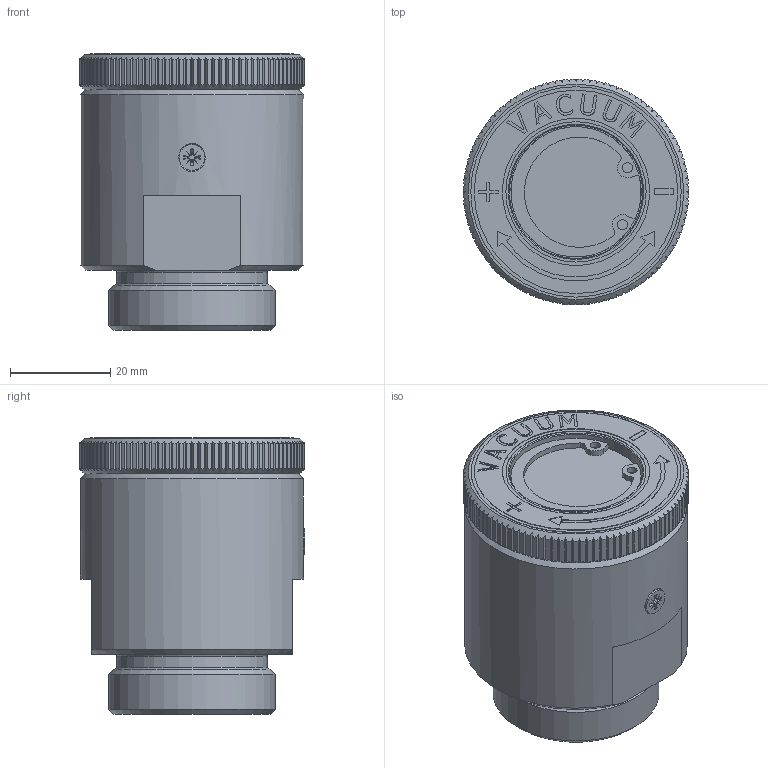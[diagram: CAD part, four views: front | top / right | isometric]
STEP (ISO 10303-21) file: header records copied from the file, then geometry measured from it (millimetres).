
FILE_DESCRIPTION(/* description */ (''),/* implementation_level */ '2;1');
FILE_NAME(/* name */ 'W:\Technik\Konstruktion\CAD-Daten\Vakuumkomponenten\Vakuumregler\73.003\73.003.stp',/* time_stamp */ '2017-10-16T14:54:47+02:00',/* author */ ('DFloßmann'),/* organization */ (''),/* preprocessor_version */ 'ST-DEVELOPER v16.5',/* originating_system */ 'Autodesk Inventor 2017',/* authorisation */ '');
FILE_SCHEMA (('AUTOMOTIVE_DESIGN { 1 0 10303 214 3 1 1 }'));
Length unit declared in the file: millimetre
Products named in the file (2): 73.003; 9004018
Assembly tree (1 placements, depth 2):
  73.003
    9004018
Bounding box: 45 x 45 x 55.2 mm (x, y, z)
Volume: 71104.8 mm3; surface area: 14339.5 mm2
Topology: 1 solids, 2 shells, 533 faces, 1486 edges, 983 vertices
Faces by surface type: plane 329, cylinder 134, cone 32, bspline 32, torus 6
Full cylindrical faces by diameter (mm): 2 x2, 4.9 x1, 5.2 x2, 6 x12, 22 x1, 26 x1, 26.6 x1, 28 x1, 29.4 x1, 30 x1, 33.2 x1, 40.6 x1, 42 x1, 44.5 x1
Entity records: 17486 total; most frequent: CARTESIAN_POINT 3558, DIRECTION 3077, ORIENTED_EDGE 2852, EDGE_CURVE 1426, AXIS2_PLACEMENT_3D 1237, VERTEX_POINT 969, CIRCLE 725, EDGE_LOOP 615
